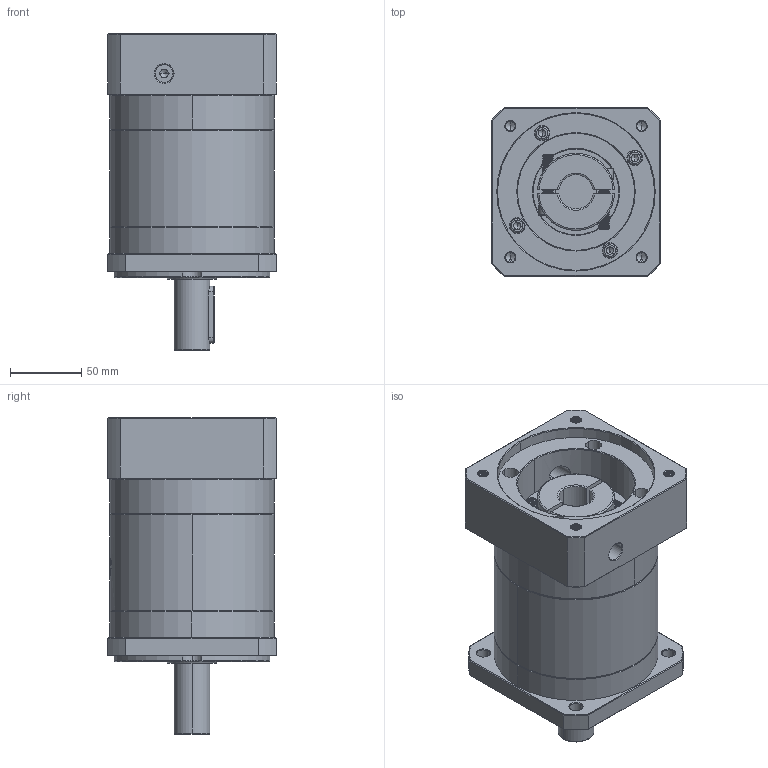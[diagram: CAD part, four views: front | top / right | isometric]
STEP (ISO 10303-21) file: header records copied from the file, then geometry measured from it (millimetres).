
FILE_DESCRIPTION (( 'STEP AP214' ), '1' );
FILE_NAME ('ZF120A-D25-L2-P2-24-110-130-M8.step', '2023-08-27T04:40:45', ( '' ), ( '' ), 'SwSTEP 2.0', 'SolidWorks 2016', '' );
FILE_SCHEMA (( 'AUTOMOTIVE_DESIGN' ));
Length unit declared in the file: millimetre
Products named in the file (1): ZF120A-D25-L2-P2-24-110-130-M8
Bounding box: 118 x 118 x 222 mm (x, y, z)
Volume: 1737700.4 mm3; surface area: 176569.1 mm2
Topology: 6 solids, 6 shells, 2219 faces, 5887 edges, 3773 vertices
Faces by surface type: plane 1034, cylinder 422, bspline 419, cone 324, torus 20
Entity records: 122695 total; most frequent: CARTESIAN_POINT 48613, ORIENTED_EDGE 11714, DIRECTION 8486, EDGE_CURVE 5857, VERTEX_POINT 3773, VECTOR 3092, LINE 3092, AXIS2_PLACEMENT_3D 2697
